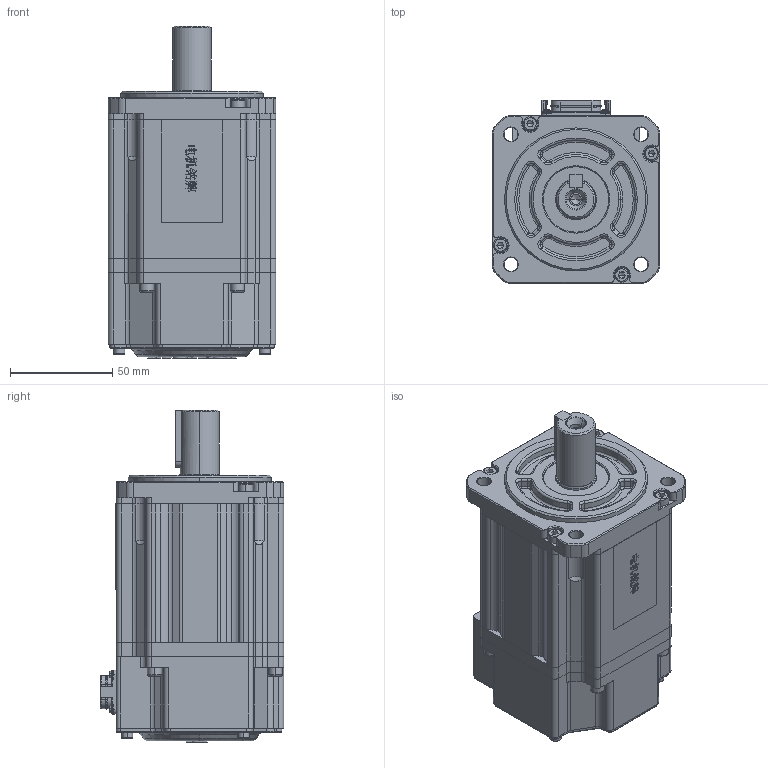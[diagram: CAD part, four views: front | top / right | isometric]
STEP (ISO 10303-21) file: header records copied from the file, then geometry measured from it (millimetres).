
FILE_DESCRIPTION (( 'STEP AP203' ), '1' );
FILE_NAME ('MC20-080-3L30-N751-0¡õCK-NNNN.STEP', '2026-04-20T15:25:47', ( '' ), ( '' ), 'SwSTEP 2.0', 'SolidWorks 2014', '' );
FILE_SCHEMA (( 'CONFIG_CONTROL_DESIGN' ));
Length unit declared in the file: millimetre
Products named in the file (1): MC20-080-3L30-N751-0¡õCK-NNNN
Bounding box: 82 x 89.65 x 162.5 mm (x, y, z)
Volume: 811759.1 mm3; surface area: 126421.1 mm2
Topology: 19 solids, 23 shells, 2303 faces, 6045 edges, 3856 vertices
Faces by surface type: plane 1058, cylinder 603, bspline 340, cone 184, torus 118
Entity records: 91285 total; most frequent: CARTESIAN_POINT 37156, ORIENTED_EDGE 11940, DIRECTION 10054, EDGE_CURVE 5970, VERTEX_POINT 3856, VECTOR 3402, LINE 3402, AXIS2_PLACEMENT_3D 3326
